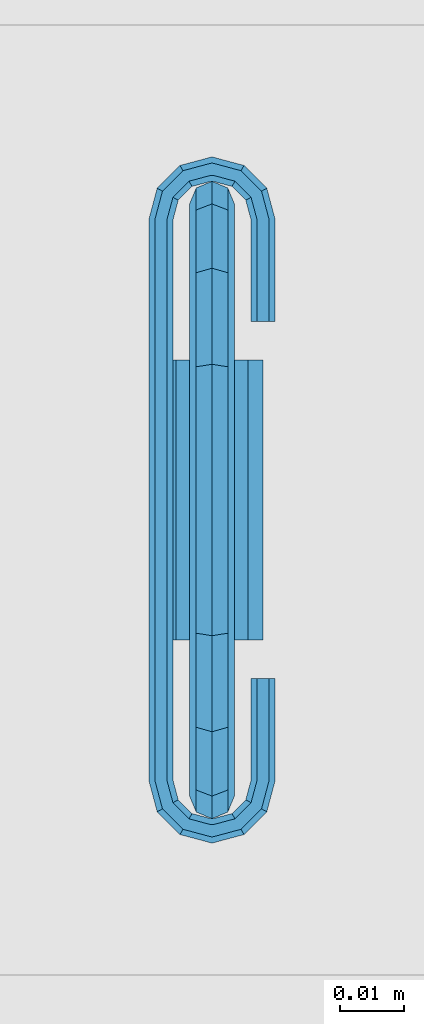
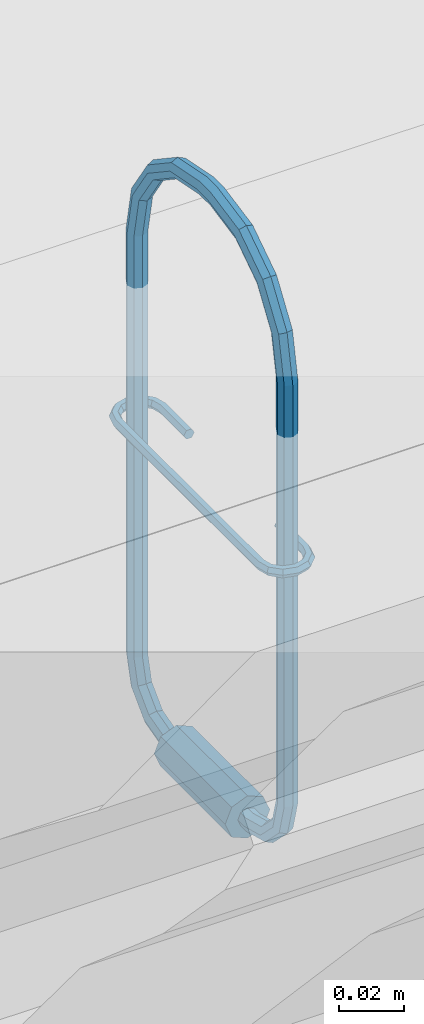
# One storey, part 190 of 230: 1 beam.
"""IFC4X3_ADD2 building model written with IfcOpenShell, lengths in millimetres."""

import ifcopenshell
import ifcopenshell.guid

model = None  # the IFC model being written
_history = None  # IfcOwnerHistory: only IFC2X3 demands one
_inside = {}  # id of a spatial element -> (the spatial element, [elements in it])
_under = {}  # id of a project, library or spatial element -> (it, [spatial elements below it])
_declared = {}  # id of a project -> (the project, [libraries it declares])
_typed = {}  # id of a type object -> (the type object, [elements of that type])
_made_of = {}  # id of a material, layer set ... -> (it, [elements and type objects made of it])


def new_model(schema):
    """Start an empty IFC model of exactly this schema.

    Asked for "IFC4X3", IfcOpenShell would pick the latest addendum, in which some entities
    have other attributes; the version numbers below select the first issue.
    IFC2X3 requires an IfcOwnerHistory on every rooted entity: one is made here for all.
    """
    global model, _history
    if schema == "IFC4X3":
        model = ifcopenshell.file(schema_version=(4, 3, 0, 0))
    else:
        model = ifcopenshell.file(schema=schema)
    _inside.clear()
    _under.clear()
    _declared.clear()
    _typed.clear()
    _made_of.clear()
    _history = None
    if model.schema == "IFC2X3":
        org = make("IfcOrganization", Name="unknown")
        user = make(
            "IfcPersonAndOrganization",
            ThePerson=make("IfcPerson", FamilyName="unknown"),
            TheOrganization=org,
        )
        app = make(
            "IfcApplication",
            ApplicationDeveloper=org,
            Version="unknown",
            ApplicationFullName="unknown",
            ApplicationIdentifier="unknown",
        )
        _history = make(
            "IfcOwnerHistory",
            OwningUser=user,
            OwningApplication=app,
            ChangeAction="ADDED",
            CreationDate=0,
        )
    return model


def make(cls, **values):
    """One entity of the class cls with the attributes given. An attribute that is None is left unset."""
    return model.create_entity(
        cls, **{name: value for name, value in values.items() if value is not None}
    )


def rooted(cls, **values):
    """An entity with a GlobalId (a new one), such as an element, a storey or a relation."""
    return make(cls, GlobalId=ifcopenshell.guid.new(), OwnerHistory=_history, **values)


def si_unit(unit_type, name, prefix=None):
    """IfcSIUnit, for example si_unit("LENGTHUNIT", "METRE", prefix="MILLI")."""
    return make("IfcSIUnit", UnitType=unit_type, Prefix=prefix, Name=name)


def assignment(units):
    """IfcUnitAssignment: the units of a project."""
    return None if units is None else make("IfcUnitAssignment", Units=units)


def point(xyz):
    """IfcCartesianPoint."""
    return None if xyz is None else make("IfcCartesianPoint", Coordinates=xyz)


def direction(xyz):
    """IfcDirection."""
    return None if xyz is None else make("IfcDirection", DirectionRatios=xyz)


def frame(location, z_axis=None, x_axis=None):
    """IfcAxis2Placement3D, a coordinate frame: its origin and axes. An axis left out is left unset."""
    return make(
        "IfcAxis2Placement3D",
        Location=point(location),
        Axis=direction(z_axis),
        RefDirection=direction(x_axis),
    )


def origin_with_axes():
    """The frame at (0, 0, 0) with the z axis (0, 0, 1) and the x axis (1, 0, 0) written out."""
    return frame((0.0, 0.0, 0.0), z_axis=(0.0, 0.0, 1.0), x_axis=(1.0, 0.0, 0.0))


def place(relative_to, where):
    """IfcLocalPlacement: puts the frame where relative to a parent placement (None: the world)."""
    return make(
        "IfcLocalPlacement", PlacementRelTo=relative_to, RelativePlacement=where
    )


def context(
    kind, dimensions, precision=None, world=None, true_north=None, identifier=None
):
    """IfcGeometricRepresentationContext, for example the 3D "Model" context."""
    return make(
        "IfcGeometricRepresentationContext",
        ContextIdentifier=identifier,
        ContextType=kind,
        CoordinateSpaceDimension=dimensions,
        Precision=precision,
        WorldCoordinateSystem=world,
        TrueNorth=true_north,
    )


def subcontext(parent, identifier, kind, view, scale=None):
    """IfcGeometricRepresentationSubContext, for example "Body" below "Model"."""
    return make(
        "IfcGeometricRepresentationSubContext",
        ContextIdentifier=identifier,
        ContextType=kind,
        ParentContext=parent,
        TargetScale=scale,
        TargetView=view,
    )


def project(units=None, contexts=None):
    """IfcProject with its units and contexts."""
    return rooted(
        "IfcProject",
        Name="project",
        RepresentationContexts=contexts,
        UnitsInContext=assignment(units),
    )


def spatial(cls, under=None, at=None, **own):
    """A site, building, storey or space (cls), placed at a placement, below another one or the project."""
    s = rooted(cls, ObjectPlacement=at, **own)
    if under is not None:
        _under.setdefault(under.id(), (under, []))[1].append(s)
    return s


def point_list(points):
    """IfcCartesianPointList2D or 3D."""
    cls = (
        "IfcCartesianPointList2D" if len(points[0]) == 2 else "IfcCartesianPointList3D"
    )
    return make(cls, CoordList=points)


def triangles(points, corners, closed=None, point_numbers=None):
    """IfcTriangulatedFaceSet: each triangle names its three corners, points numbered from 1."""
    return make(
        "IfcTriangulatedFaceSet",
        Coordinates=point_list(points),
        Closed=closed,
        CoordIndex=corners,
        PnIndex=point_numbers,
    )


def shape(context_of_items, identifier, shape_type, items):
    """IfcShapeRepresentation: the items that make up one representation, for example the "Body"."""
    return make(
        "IfcShapeRepresentation",
        ContextOfItems=context_of_items,
        RepresentationIdentifier=identifier,
        RepresentationType=shape_type,
        Items=items,
    )


def made_of(thing, what):
    """Note that an element or type object is made of a material, layer set ...; save() writes the relation."""
    if what is not None:
        _made_of.setdefault(what.id(), (what, []))[1].append(thing)
    return thing


def element(
    cls,
    number,
    at=None,
    inside=None,
    cuts=None,
    type_object=None,
    material=None,
    context=None,
    identifier="Body",
    shape_type=None,
    held_by="IfcProductDefinitionShape",
    body=None,
    shapes=None,
    **own,
):
    """One element of the class cls, such as IfcWall. Its Tag is "e" and its number.

    at: its placement. inside: the storey or other place that contains it. cuts: it is an
    opening in that element (IfcRelVoidsElement). A single representation is given by context,
    identifier, shape_type and body (its items); several are given by shapes. held_by: the class
    of the entity that holds the representations. save() writes the other relations.
    """
    e = rooted(cls, Tag="e%d" % number, ObjectPlacement=at, **own)
    if body is not None:
        shapes = [shape(context, identifier, shape_type, body)]
    if shapes is not None:
        e.Representation = make(held_by, Representations=shapes)
    if inside is not None:
        _inside.setdefault(inside.id(), (inside, []))[1].append(e)
    if cuts is not None:
        rooted(
            "IfcRelVoidsElement", RelatingBuildingElement=cuts, RelatedOpeningElement=e
        )
    if type_object is not None:
        _typed.setdefault(type_object.id(), (type_object, []))[1].append(e)
    return made_of(e, material)


def aggregate(whole, parts):
    """IfcRelAggregates: a whole, such as a stair, and the parts it consists of."""
    return rooted("IfcRelAggregates", RelatingObject=whole, RelatedObjects=parts)


def save(model, path):
    """Write the relations noted so far, then the file.

    IfcRelAggregates (storeys below a building ...), IfcRelContainedInSpatialStructure (elements
    in a storey), IfcRelDefinesByType, IfcRelAssociatesMaterial and IfcRelDeclares: one each for
    every whole, place, type object, material and project.
    """
    for whole, parts in _under.values():
        aggregate(whole, parts)
    for where, things in _inside.values():
        rooted(
            "IfcRelContainedInSpatialStructure",
            RelatedElements=things,
            RelatingStructure=where,
        )
    for kind, things in _typed.values():
        rooted("IfcRelDefinesByType", RelatedObjects=things, RelatingType=kind)
    for what, things in _made_of.values():
        rooted("IfcRelAssociatesMaterial", RelatedObjects=things, RelatingMaterial=what)
    for by, libraries in _declared.values():
        rooted("IfcRelDeclares", RelatingContext=by, RelatedDefinitions=libraries)
    model.write(path)


model = new_model("IFC4X3_ADD2")

# Units and contexts
model_context = context("Model", 3, precision=1e-05, world=origin_with_axes(), true_north=direction((0.0, 1.0)))
body_context = subcontext(model_context, "Body", "Model", "MODEL_VIEW")
ifc_project = project(units=[si_unit("LENGTHUNIT", "METRE", prefix="MILLI"), si_unit("AREAUNIT", "SQUARE_METRE"), si_unit("VOLUMEUNIT", "CUBIC_METRE"), si_unit("PLANEANGLEUNIT", "RADIAN"), si_unit("TIMEUNIT", "SECOND"), si_unit("MASSUNIT", "GRAM")], contexts=[model_context])

# Site, building, storey
site_placement = place(None, origin_with_axes())
site = spatial("IfcSite", under=ifc_project, at=site_placement, Name="Site", CompositionType="ELEMENT")
building_placement = place(site_placement, origin_with_axes())
building = spatial("IfcBuilding", under=site, at=building_placement, Name="IFC Building Story")
storey_placement = place(building_placement, origin_with_axes())
storey = spatial("IfcBuildingStorey", under=building, at=storey_placement, Name="ETAGE 00 (0)", Elevation=0.0)

# Beam
beam_placement = place(storey_placement, origin_with_axes())
element("IfcBeam", 1, at=beam_placement, inside=storey, Name="LU2", ObjectType="D7", context=body_context, shape_type="Tessellation", body=[
    triangles([(38804.68954467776, 8190.500642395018, 4038.500006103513), (38804.68954467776, 8180.000701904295, 4041.313497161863), (38803.66402587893, 8178.763568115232, 4039.170023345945), (38803.66402587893, 8190.500642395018, 4036.025157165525), (38804.68954467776, 8172.314543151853, 4048.999946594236), (38803.66402587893, 8170.171069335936, 4047.762522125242), (38801.1897583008, 8169.283332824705, 4047.250053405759), (38801.1897583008, 8178.250808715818, 4038.282286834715), (38798.71316528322, 8178.763568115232, 4039.170023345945), (38798.71316528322, 8170.171069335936, 4047.762522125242), (38797.68997192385, 8180.000701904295, 4041.313497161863), (38797.68997192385, 8172.314543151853, 4048.999946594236), (38798.71316528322, 8174.457435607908, 4050.237371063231), (38798.71316528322, 8181.23841705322, 4043.456680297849), (38801.1897583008, 8175.34517211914, 4050.750130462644), (38801.1897583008, 8181.751176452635, 4044.34441680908), (38803.66402587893, 8174.457435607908, 4050.237371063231), (38803.66402587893, 8181.23841705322, 4043.456680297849), (38804.68954467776, 8169.500761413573, 4059.499887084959), (38803.66402587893, 8171.975610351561, 4059.499887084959), (38803.66402587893, 8167.025912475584, 4059.499887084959), (38801.1897583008, 8166.000975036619, 4059.499887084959), (38798.71316528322, 8167.025912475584, 4059.499887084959), (38797.68997192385, 8169.500761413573, 4059.499887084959), (38798.71316528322, 8171.975610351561, 4059.499887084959), (38801.1897583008, 8173.001129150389, 4059.499887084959), (38803.66402587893, 8171.975610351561, 4218.50006561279), (38801.1897583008, 8173.001129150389, 4218.50006561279), (38803.66402587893, 8175.060305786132, 4234.008421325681), (38801.1897583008, 8176.007922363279, 4233.616003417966), (38803.66402587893, 8183.845234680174, 4247.155583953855), (38801.1897583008, 8184.570190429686, 4246.430628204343), (38804.68954467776, 8182.095341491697, 4248.905477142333), (38804.68954467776, 8172.773817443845, 4234.955456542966), (38803.66402587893, 8180.34544830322, 4250.65566101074), (38803.66402587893, 8170.487329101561, 4235.902491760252), (38801.1897583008, 8179.620492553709, 4251.38032608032), (38801.1897583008, 8169.540293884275, 4236.294909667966), (38798.71316528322, 8170.487329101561, 4235.902491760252), (38798.71316528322, 8180.34544830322, 4250.65566101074), (38797.68997192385, 8172.773817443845, 4234.955456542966), (38797.68997192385, 8182.095341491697, 4248.905477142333), (38798.71316528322, 8183.845234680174, 4247.155583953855), (38798.71316528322, 8175.060305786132, 4234.008421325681), (38801.1897583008, 8197.385105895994, 4254.993186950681), (38798.71316528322, 8196.992687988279, 4255.940222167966), (38803.66402587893, 8196.992687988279, 4255.940222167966), (38804.68954467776, 8196.045652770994, 4258.226710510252), (38803.66402587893, 8195.09861755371, 4260.513198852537), (38801.1897583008, 8194.706199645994, 4261.460524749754), (38798.71316528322, 8195.09861755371, 4260.513198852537), (38797.68997192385, 8196.045652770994, 4258.226710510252), (38798.71316528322, 8212.50104370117, 4259.025208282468), (38797.68997192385, 8212.50104370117, 4261.500057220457), (38801.1897583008, 8212.50104370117, 4257.999980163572), (38803.66402587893, 8212.50104370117, 4259.025208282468), (38804.68954467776, 8212.50104370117, 4261.500057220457), (38803.66402587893, 8212.50104370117, 4263.974906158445), (38801.1897583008, 8212.50104370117, 4265.000134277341), (38798.71316528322, 8212.50104370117, 4263.974906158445), (38798.71316528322, 8219.500616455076, 4263.974906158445), (38797.68997192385, 8219.500616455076, 4261.500057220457), (38798.71316528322, 8236.9036239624, 4260.513198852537), (38797.68997192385, 8235.956007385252, 4258.226710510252), (38798.71316528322, 8251.656211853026, 4250.65566101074), (38797.68997192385, 8249.906318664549, 4248.905477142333), (38798.71316528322, 8248.156425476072, 4247.155583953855), (38798.71316528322, 8235.008972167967, 4255.940222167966), (38801.1897583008, 8247.43146972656, 4246.430628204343), (38801.1897583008, 8234.617135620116, 4254.993186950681), (38803.66402587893, 8248.156425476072, 4247.155583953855), (38803.66402587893, 8235.008972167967, 4255.940222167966), (38804.68954467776, 8249.906318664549, 4248.905477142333), (38804.68954467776, 8235.956007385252, 4258.226710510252), (38803.66402587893, 8251.656211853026, 4250.65566101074), (38803.66402587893, 8236.9036239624, 4260.513198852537), (38801.1897583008, 8252.381167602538, 4251.38032608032), (38801.1897583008, 8237.295460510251, 4261.460524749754), (38801.1897583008, 8262.461366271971, 4236.294909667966), (38798.71316528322, 8261.514331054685, 4235.902491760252), (38797.68997192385, 8259.2278427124, 4234.955456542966), (38798.71316528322, 8256.941354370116, 4234.008421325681), (38801.1897583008, 8255.994319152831, 4233.616003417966), (38803.66402587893, 8256.941354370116, 4234.008421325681), (38804.68954467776, 8259.2278427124, 4234.955456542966), (38803.66402587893, 8261.514331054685, 4235.902491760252), (38803.66402587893, 8264.975747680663, 4218.50006561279), (38801.1897583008, 8266.000685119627, 4218.50006561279), (38798.71316528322, 8264.975747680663, 4218.50006561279), (38797.68997192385, 8262.500898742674, 4218.50006561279), (38798.71316528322, 8260.026049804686, 4218.50006561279), (38801.1897583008, 8259.00111236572, 4218.50006561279), (38803.66402587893, 8260.026049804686, 4218.50006561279), (38804.68954467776, 8262.500898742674, 4218.50006561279), (38804.68954467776, 8262.500898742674, 4059.499887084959), (38803.66402587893, 8264.975747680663, 4059.499887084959), (38804.68954467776, 8259.687698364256, 4048.999946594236), (38803.66402587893, 8261.830590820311, 4047.762522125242), (38804.68954467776, 8252.000958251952, 4041.313497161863), (38803.66402587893, 8253.238092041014, 4039.170023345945), (38801.1897583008, 8253.750851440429, 4038.282286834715), (38801.1897583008, 8262.71832733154, 4047.250053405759), (38798.71316528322, 8261.830590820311, 4047.762522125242), (38798.71316528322, 8253.238092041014, 4039.170023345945), (38797.68997192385, 8259.687698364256, 4048.999946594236), (38797.68997192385, 8252.000958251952, 4041.313497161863), (38798.71316528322, 8250.763243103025, 4043.456680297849), (38798.71316528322, 8257.54422454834, 4050.237371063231), (38801.1897583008, 8250.251065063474, 4044.34441680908), (38801.1897583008, 8256.656488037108, 4050.750130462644), (38803.66402587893, 8250.763243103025, 4043.456680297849), (38803.66402587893, 8257.54422454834, 4050.237371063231), (38804.68954467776, 8241.501017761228, 4038.500006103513), (38803.66402587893, 8241.501017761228, 4040.974855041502), (38803.66402587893, 8241.501017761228, 4036.025157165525), (38801.1897583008, 8241.501017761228, 4034.999929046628), (38798.71316528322, 8241.501017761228, 4036.025157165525), (38797.68997192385, 8241.501017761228, 4038.500006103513), (38798.71316528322, 8241.501017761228, 4040.974855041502), (38801.1897583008, 8241.501017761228, 4042.000083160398), (38803.66402587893, 8238.000650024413, 4040.974855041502), (38801.1897583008, 8238.000650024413, 4042.000083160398), (38798.71316528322, 8238.000650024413, 4040.974855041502), (38797.68997192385, 8238.000650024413, 4038.500006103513), (38798.71316528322, 8238.000650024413, 4036.025157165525), (38801.1897583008, 8238.000650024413, 4034.999929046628), (38803.66402587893, 8238.000650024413, 4036.025157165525), (38804.68954467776, 8238.000650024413, 4038.500006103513), (38809.18927001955, 8238.000650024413, 4038.500006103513), (38801.1897583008, 8238.000650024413, 4030.4999130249), (38795.53196411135, 8238.000650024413, 4032.843083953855), (38793.18792114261, 8238.000650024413, 4038.500006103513), (38806.84522705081, 8238.000650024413, 4032.843083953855), (38795.53196411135, 8238.000650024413, 4044.156928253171), (38801.1897583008, 8238.000650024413, 4046.500099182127), (38806.84522705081, 8238.000650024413, 4044.156928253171), (38801.1897583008, 8194.001010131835, 4030.4999130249), (38795.53196411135, 8194.001010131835, 4032.843083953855), (38793.18792114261, 8194.001010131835, 4038.500006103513), (38795.53196411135, 8194.001010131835, 4044.156928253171), (38801.1897583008, 8194.001010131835, 4046.500099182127), (38806.84522705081, 8194.001010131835, 4044.156928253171), (38809.18927001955, 8194.001010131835, 4038.500006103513), (38806.84522705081, 8194.001010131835, 4032.843083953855), (38803.66402587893, 8194.001010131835, 4040.974855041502), (38804.68954467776, 8194.001010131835, 4038.500006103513), (38798.71316528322, 8194.001010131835, 4040.974855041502), (38801.1897583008, 8194.001010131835, 4042.000083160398), (38797.68997192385, 8194.001010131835, 4038.500006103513), (38798.71316528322, 8194.001010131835, 4036.025157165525), (38801.1897583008, 8194.001010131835, 4034.999929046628), (38803.66402587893, 8194.001010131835, 4036.025157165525), (38801.1897583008, 8190.500642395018, 4034.999929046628), (38798.71316528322, 8190.500642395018, 4036.025157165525), (38797.68997192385, 8190.500642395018, 4038.500006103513), (38798.71316528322, 8190.500642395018, 4040.974855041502), (38801.1897583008, 8190.500642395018, 4042.000083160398), (38803.66402587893, 8190.500642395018, 4040.974855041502), (38803.66402587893, 8260.026049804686, 4059.499887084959), (38801.1897583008, 8259.00111236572, 4059.499887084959), (38798.71316528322, 8260.026049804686, 4059.499887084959), (38797.68997192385, 8262.500898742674, 4059.499887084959), (38798.71316528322, 8264.975747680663, 4059.499887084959), (38801.1897583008, 8266.000685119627, 4059.499887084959), (38801.1897583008, 8219.500616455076, 4265.000134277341), (38803.66402587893, 8219.500616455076, 4263.974906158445), (38804.68954467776, 8219.500616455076, 4261.500057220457), (38803.66402587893, 8219.500616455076, 4259.025208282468), (38801.1897583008, 8219.500616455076, 4257.999980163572), (38798.71316528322, 8219.500616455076, 4259.025208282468), (38798.71316528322, 8171.975610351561, 4218.50006561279), (38797.68997192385, 8169.500761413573, 4218.50006561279), (38798.71316528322, 8167.025912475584, 4218.50006561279), (38801.1897583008, 8166.000975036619, 4218.50006561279), (38803.66402587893, 8167.025912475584, 4218.50006561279), (38804.68954467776, 8169.500761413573, 4218.50006561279), (38808.23816528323, 8188.000794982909, 4148.354637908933), (38808.23816528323, 8171.940728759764, 4148.354637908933), (38807.28938598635, 8188.000794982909, 4149.999886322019), (38807.28938598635, 8171.940728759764, 4149.999886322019), (38807.31496582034, 8168.496171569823, 4148.354637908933), (38806.49408569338, 8168.971142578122, 4149.999886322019), (38804.79418945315, 8165.974232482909, 4148.354637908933), (38804.31979980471, 8166.796856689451, 4149.999886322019), (38807.31496582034, 8168.496171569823, 4151.645425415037), (38804.79418945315, 8165.974232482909, 4151.645425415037), (38793.41581420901, 8167.545648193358, 4151.645425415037), (38795.06222534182, 8168.496171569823, 4151.645425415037), (38792.23914184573, 8171.940728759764, 4151.645425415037), (38797.583001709, 8165.974232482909, 4151.645425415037), (38796.63422241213, 8164.32840270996, 4151.645425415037), (38794.13902587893, 8171.940728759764, 4151.645425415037), (38801.02930297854, 8165.051033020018, 4151.645425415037), (38801.34788818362, 8163.151148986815, 4151.645425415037), (38801.02930297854, 8163.151148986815, 4151.645425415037), (38801.34788818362, 8165.051033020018, 4151.645425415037), (38794.13902587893, 8260.060931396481, 4151.645425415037), (38792.23914184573, 8260.060931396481, 4151.645425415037), (38797.583001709, 8266.028009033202, 4151.645425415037), (38796.63422241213, 8267.673257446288, 4151.645425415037), (38793.41581420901, 8264.456011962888, 4151.645425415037), (38795.06222534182, 8263.506069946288, 4151.645425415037), (38801.02930297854, 8266.950627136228, 4151.645425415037), (38801.34788818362, 8268.851092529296, 4151.645425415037), (38801.02930297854, 8268.851092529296, 4151.645425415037), (38801.34788818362, 8266.950627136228, 4151.645425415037), (38805.74296875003, 8267.673257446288, 4151.645425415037), (38808.96137695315, 8167.545648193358, 4151.645425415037), (38805.74296875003, 8164.32840270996, 4151.645425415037), (38810.13804931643, 8171.940728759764, 4151.645425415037), (38808.23816528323, 8171.940728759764, 4151.645425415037), (38810.13804931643, 8188.000794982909, 4151.645425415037), (38808.23816528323, 8188.000794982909, 4151.645425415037), (38804.79418945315, 8266.028009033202, 4151.645425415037), (38808.96137695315, 8264.456011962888, 4151.645425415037), (38807.31496582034, 8263.506069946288, 4151.645425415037), (38810.13804931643, 8260.060931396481, 4151.645425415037), (38808.23816528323, 8260.060931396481, 4151.645425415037), (38810.13804931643, 8244.000865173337, 4151.645425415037), (38808.23816528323, 8244.000865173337, 4151.645425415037), (38810.13804931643, 8244.000865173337, 4148.354637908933), (38808.23816528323, 8244.000865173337, 4148.354637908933), (38807.28938598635, 8244.000865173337, 4149.999886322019), (38811.08915405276, 8244.000865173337, 4149.999886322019), (38808.23816528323, 8260.060931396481, 4148.354637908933), (38807.28938598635, 8260.060931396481, 4149.999886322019), (38793.41581420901, 8264.456011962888, 4148.354637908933), (38795.06222534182, 8263.506069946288, 4148.354637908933), (38792.23914184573, 8260.060931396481, 4148.354637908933), (38797.583001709, 8266.028009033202, 4148.354637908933), (38796.63422241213, 8267.673257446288, 4148.354637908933), (38794.13902587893, 8260.060931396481, 4148.354637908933), (38801.02930297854, 8266.950627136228, 4148.354637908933), (38801.34788818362, 8268.851092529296, 4148.354637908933), (38801.34788818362, 8266.950627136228, 4148.354637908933), (38801.02930297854, 8268.851092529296, 4148.354637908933), (38794.13902587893, 8171.940728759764, 4148.354637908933), (38792.23914184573, 8171.940728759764, 4148.354637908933), (38797.583001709, 8165.974232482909, 4148.354637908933), (38796.63422241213, 8164.32840270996, 4148.354637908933), (38793.41581420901, 8167.545648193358, 4148.354637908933), (38795.06222534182, 8168.496171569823, 4148.354637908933), (38801.02930297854, 8165.051033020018, 4148.354637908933), (38801.02930297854, 8163.151148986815, 4148.354637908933), (38801.34788818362, 8163.151148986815, 4148.354637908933), (38801.34788818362, 8165.051033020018, 4148.354637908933), (38805.74296875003, 8164.32840270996, 4148.354637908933), (38804.79418945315, 8266.028009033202, 4148.354637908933), (38808.96137695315, 8264.456011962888, 4148.354637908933), (38807.31496582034, 8263.506069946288, 4148.354637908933), (38805.74296875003, 8267.673257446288, 4148.354637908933), (38810.13804931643, 8260.060931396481, 4148.354637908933), (38808.96137695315, 8167.545648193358, 4148.354637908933), (38810.13804931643, 8171.940728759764, 4148.354637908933), (38810.13804931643, 8188.000794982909, 4148.354637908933), (38811.08915405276, 8260.060931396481, 4149.999886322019), (38809.78458251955, 8264.93098297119, 4149.999886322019), (38806.21968383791, 8268.49588165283, 4149.999886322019), (38801.34788818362, 8269.801034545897, 4149.999886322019), (38801.02930297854, 8269.801034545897, 4149.999886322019), (38796.1598327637, 8268.49588165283, 4149.999886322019), (38792.59493408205, 8264.93098297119, 4149.999886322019), (38791.2880371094, 8260.060931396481, 4149.999886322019), (38791.2880371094, 8171.940728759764, 4149.999886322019), (38792.59493408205, 8167.070677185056, 4149.999886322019), (38796.1598327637, 8163.505778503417, 4149.999886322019), (38801.02930297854, 8162.20062561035, 4149.999886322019), (38801.34788818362, 8162.20062561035, 4149.999886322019), (38806.21968383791, 8163.505778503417, 4149.999886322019), (38809.78458251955, 8167.070677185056, 4149.999886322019), (38811.08915405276, 8171.940728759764, 4149.999886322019), (38811.08915405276, 8188.000794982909, 4149.999886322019), (38801.34788818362, 8166.000975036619, 4149.999886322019), (38801.02930297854, 8166.000975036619, 4149.999886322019), (38798.0597167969, 8166.796856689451, 4149.999886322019), (38795.88543090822, 8168.971142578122, 4149.999886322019), (38795.09013061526, 8171.940728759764, 4149.999886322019), (38795.09013061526, 8260.060931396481, 4149.999886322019), (38795.88543090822, 8263.031098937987, 4149.999886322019), (38798.0597167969, 8265.204803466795, 4149.999886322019), (38801.02930297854, 8266.000685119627, 4149.999886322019), (38801.34788818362, 8266.000685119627, 4149.999886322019), (38804.31979980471, 8265.204803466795, 4149.999886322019), (38806.49408569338, 8263.031098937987, 4149.999886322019)], [[1, 2, 3], [3, 4, 1], [2, 5, 6], [6, 3, 2], [3, 6, 7], [7, 8, 3], [8, 7, 9], [10, 9, 7], [9, 10, 11], [12, 11, 10], [13, 14, 11], [11, 12, 13], [15, 16, 14], [14, 13, 15], [17, 18, 15], [16, 15, 18], [5, 2, 17], [18, 17, 2], [19, 5, 20], [17, 20, 5], [5, 19, 21], [21, 6, 5], [6, 21, 22], [22, 7, 6], [7, 22, 10], [23, 10, 22], [10, 23, 12], [24, 12, 23], [25, 13, 12], [12, 24, 25], [26, 15, 13], [13, 25, 26], [20, 17, 26], [15, 26, 17], [27, 20, 26], [26, 28, 27], [29, 27, 30], [28, 30, 27], [31, 29, 32], [30, 32, 29], [33, 34, 31], [29, 31, 34], [34, 33, 35], [35, 36, 34], [36, 35, 37], [37, 38, 36], [38, 37, 39], [40, 39, 37], [39, 40, 41], [42, 41, 40], [43, 44, 41], [41, 42, 43], [32, 30, 44], [44, 43, 32], [45, 32, 43], [43, 46, 45], [47, 31, 45], [32, 45, 31], [48, 33, 47], [31, 47, 33], [33, 48, 49], [49, 35, 33], [35, 49, 50], [50, 37, 35], [37, 50, 40], [51, 40, 50], [40, 51, 42], [52, 42, 51], [46, 43, 42], [42, 52, 46], [53, 46, 52], [52, 54, 53], [55, 45, 46], [46, 53, 55], [56, 47, 55], [45, 55, 47], [57, 48, 56], [47, 56, 48], [48, 57, 58], [58, 49, 48], [49, 58, 59], [59, 50, 49], [50, 59, 51], [60, 51, 59], [51, 60, 52], [54, 52, 60], [60, 61, 54], [62, 54, 61], [61, 63, 62], [64, 62, 63], [63, 65, 64], [66, 64, 65], [67, 68, 64], [64, 66, 67], [69, 70, 68], [68, 67, 69], [71, 72, 69], [70, 69, 72], [73, 74, 71], [72, 71, 74], [74, 73, 75], [75, 76, 74], [76, 75, 77], [77, 78, 76], [78, 77, 63], [65, 63, 77], [77, 79, 65], [80, 65, 79], [65, 80, 66], [81, 66, 80], [82, 67, 66], [66, 81, 82], [83, 69, 67], [67, 82, 83], [84, 71, 83], [69, 83, 71], [85, 73, 84], [71, 84, 73], [73, 85, 86], [86, 75, 73], [75, 86, 79], [79, 77, 75], [86, 87, 88], [88, 79, 86], [79, 88, 80], [89, 80, 88], [80, 89, 81], [90, 81, 89], [91, 82, 81], [81, 90, 91], [92, 83, 82], [82, 91, 92], [93, 84, 92], [83, 92, 84], [94, 85, 93], [84, 93, 85], [85, 94, 87], [87, 86, 85], [94, 95, 96], [96, 87, 94], [95, 97, 98], [98, 96, 95], [97, 99, 100], [100, 98, 97], [98, 100, 101], [101, 102, 98], [102, 101, 103], [104, 103, 101], [103, 104, 105], [106, 105, 104], [107, 108, 105], [105, 106, 107], [109, 110, 108], [108, 107, 109], [111, 112, 109], [110, 109, 112], [99, 97, 111], [112, 111, 97], [113, 99, 114], [111, 114, 99], [99, 113, 115], [115, 100, 99], [100, 115, 116], [116, 101, 100], [101, 116, 104], [117, 104, 116], [104, 117, 106], [118, 106, 117], [119, 107, 106], [106, 118, 119], [120, 109, 107], [107, 119, 120], [114, 111, 120], [109, 120, 111], [121, 114, 122], [120, 122, 114], [122, 120, 119], [119, 123, 122], [123, 119, 124], [118, 124, 119], [117, 125, 124], [124, 118, 117], [116, 126, 117], [125, 117, 126], [115, 127, 126], [126, 116, 115], [113, 128, 115], [127, 115, 128], [128, 113, 114], [114, 121, 128], [127, 128, 129], [125, 126, 130], [130, 131, 125], [132, 124, 125], [132, 125, 131], [133, 126, 127], [126, 133, 130], [127, 129, 133], [134, 124, 132], [123, 135, 122], [123, 124, 134], [134, 135, 123], [136, 129, 128], [128, 121, 136], [122, 136, 121], [136, 122, 135], [130, 137, 131], [138, 131, 137], [131, 138, 132], [139, 132, 138], [140, 134, 139], [132, 139, 134], [141, 135, 140], [134, 140, 135], [142, 136, 141], [135, 141, 136], [143, 129, 142], [136, 142, 129], [129, 143, 133], [144, 133, 143], [133, 144, 130], [137, 130, 144], [145, 146, 143], [147, 148, 141], [141, 140, 147], [139, 149, 147], [139, 147, 140], [142, 148, 145], [148, 142, 141], [145, 143, 142], [138, 149, 139], [150, 137, 151], [150, 149, 138], [138, 137, 150], [144, 143, 146], [146, 152, 144], [151, 144, 152], [144, 151, 137], [146, 1, 152], [4, 152, 1], [152, 4, 151], [153, 151, 4], [151, 153, 150], [154, 150, 153], [150, 154, 149], [155, 149, 154], [156, 147, 155], [149, 155, 147], [157, 148, 156], [147, 156, 148], [158, 145, 157], [148, 157, 145], [1, 146, 158], [145, 158, 146], [2, 1, 18], [158, 18, 1], [18, 158, 16], [157, 16, 158], [16, 157, 156], [156, 14, 16], [14, 156, 155], [155, 11, 14], [154, 9, 155], [11, 155, 9], [153, 8, 154], [9, 154, 8], [4, 3, 8], [8, 153, 4], [97, 95, 112], [159, 112, 95], [112, 159, 110], [160, 110, 159], [110, 160, 161], [161, 108, 110], [108, 161, 162], [162, 105, 108], [163, 103, 162], [105, 162, 103], [164, 102, 163], [103, 163, 102], [96, 98, 102], [102, 164, 96], [87, 96, 88], [164, 88, 96], [88, 164, 163], [163, 89, 88], [89, 163, 90], [162, 90, 163], [161, 91, 162], [90, 162, 91], [160, 92, 161], [91, 161, 92], [159, 93, 92], [92, 160, 159], [95, 94, 93], [93, 159, 95], [165, 78, 61], [63, 61, 78], [166, 76, 78], [78, 165, 166], [167, 74, 76], [76, 166, 167], [74, 167, 72], [168, 72, 167], [72, 168, 70], [169, 70, 168], [70, 169, 170], [170, 68, 70], [68, 170, 62], [62, 64, 68], [170, 53, 62], [54, 62, 53], [169, 55, 170], [53, 170, 55], [168, 56, 55], [55, 169, 168], [167, 57, 56], [56, 168, 167], [57, 167, 166], [166, 58, 57], [58, 166, 165], [165, 59, 58], [59, 165, 60], [61, 60, 165], [30, 28, 171], [171, 44, 30], [44, 171, 172], [172, 41, 44], [173, 39, 172], [41, 172, 39], [174, 38, 173], [39, 173, 38], [175, 36, 38], [38, 174, 175], [176, 34, 36], [36, 175, 176], [34, 176, 29], [27, 29, 176], [176, 19, 20], [20, 27, 176], [19, 176, 175], [175, 21, 19], [21, 175, 22], [174, 22, 175], [22, 174, 173], [173, 23, 22], [23, 173, 24], [172, 24, 173], [171, 25, 172], [24, 172, 25], [28, 26, 171], [25, 171, 26], [177, 178, 179], [180, 179, 178], [178, 181, 182], [182, 180, 178], [182, 181, 183], [183, 184, 182], [185, 182, 186], [184, 186, 182], [187, 188, 189], [190, 188, 187], [190, 187, 191], [192, 189, 188], [193, 190, 191], [194, 193, 195], [193, 194, 196], [195, 193, 191], [189, 197, 198], [199, 200, 201], [192, 197, 189], [198, 202, 201], [202, 198, 197], [201, 202, 199], [203, 204, 205], [203, 205, 200], [203, 206, 204], [199, 203, 200], [207, 204, 206], [186, 208, 185], [196, 209, 186], [209, 208, 186], [194, 209, 196], [210, 211, 185], [185, 208, 210], [211, 212, 213], [212, 211, 210], [214, 215, 207], [216, 215, 214], [214, 207, 206], [217, 215, 216], [218, 219, 217], [219, 218, 220], [218, 217, 216], [220, 221, 219], [222, 220, 223], [219, 221, 224], [220, 222, 221], [225, 222, 223], [223, 226, 225], [227, 228, 229], [230, 228, 227], [230, 227, 231], [232, 229, 228], [233, 234, 235], [233, 230, 231], [231, 236, 233], [236, 234, 233], [229, 237, 238], [239, 240, 241], [232, 237, 229], [238, 242, 241], [242, 238, 237], [241, 242, 239], [243, 244, 240], [240, 239, 243], [243, 245, 244], [245, 243, 246], [246, 247, 245], [248, 249, 250], [235, 251, 248], [251, 249, 248], [234, 251, 235], [252, 225, 250], [250, 249, 252], [225, 221, 222], [221, 225, 252], [183, 253, 247], [181, 253, 183], [183, 247, 246], [254, 253, 181], [178, 255, 254], [255, 178, 177], [178, 254, 181], [256, 224, 221], [221, 252, 256], [224, 256, 219], [217, 219, 256], [217, 256, 215], [257, 215, 256], [256, 252, 249], [249, 257, 256], [257, 249, 258], [251, 258, 249], [215, 257, 258], [258, 207, 215], [207, 258, 259], [259, 204, 207], [204, 259, 205], [260, 205, 259], [205, 260, 200], [261, 200, 260], [260, 236, 231], [231, 261, 260], [259, 234, 236], [236, 260, 259], [258, 251, 259], [234, 259, 251], [261, 231, 227], [227, 262, 261], [200, 261, 201], [262, 201, 261], [201, 262, 263], [263, 198, 201], [189, 198, 264], [263, 264, 198], [265, 187, 264], [189, 264, 187], [241, 265, 264], [264, 238, 241], [229, 238, 264], [264, 263, 229], [262, 227, 263], [229, 263, 227], [240, 266, 241], [265, 241, 266], [266, 191, 187], [187, 265, 266], [267, 195, 191], [191, 266, 267], [268, 194, 195], [195, 267, 268], [269, 209, 268], [194, 268, 209], [247, 269, 268], [268, 245, 247], [245, 268, 244], [267, 244, 268], [244, 267, 240], [266, 240, 267], [253, 270, 269], [269, 247, 253], [270, 208, 269], [209, 269, 208], [271, 210, 208], [208, 270, 271], [271, 272, 210], [212, 210, 272], [212, 177, 213], [255, 212, 272], [213, 177, 179], [212, 255, 177], [272, 271, 255], [254, 255, 271], [254, 271, 253], [270, 253, 271], [211, 213, 179], [179, 180, 211], [185, 211, 182], [180, 182, 211], [184, 183, 246], [246, 273, 184], [186, 184, 196], [273, 196, 184], [196, 273, 193], [274, 193, 273], [193, 274, 275], [275, 190, 193], [190, 275, 276], [276, 188, 190], [276, 277, 192], [192, 188, 276], [277, 278, 197], [197, 192, 277], [278, 279, 197], [202, 197, 279], [280, 199, 279], [202, 279, 199], [281, 203, 280], [199, 280, 203], [282, 206, 281], [203, 281, 206], [283, 214, 206], [206, 282, 283], [284, 216, 214], [214, 283, 284], [218, 216, 284], [284, 226, 218], [220, 218, 223], [226, 223, 218], [250, 225, 284], [226, 284, 225], [250, 284, 248], [283, 248, 284], [248, 283, 235], [282, 235, 283], [235, 282, 281], [281, 233, 235], [233, 281, 280], [280, 230, 233], [230, 280, 279], [279, 228, 230], [279, 278, 232], [232, 228, 279], [278, 277, 232], [237, 232, 277], [277, 276, 237], [242, 237, 276], [275, 239, 276], [242, 276, 239], [274, 243, 275], [239, 275, 243], [273, 246, 243], [243, 274, 273]]),
])

save(model, "model.ifc")
